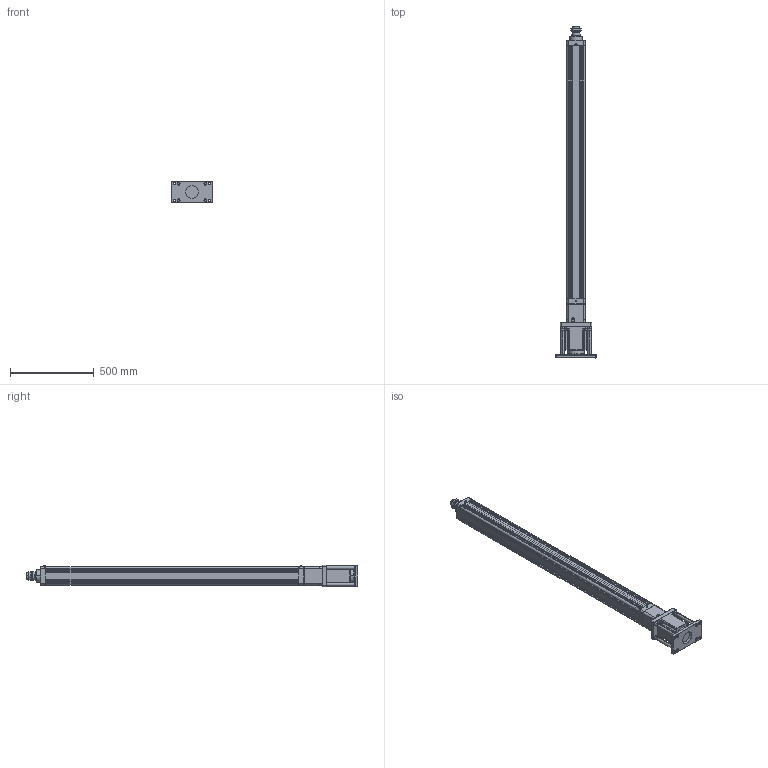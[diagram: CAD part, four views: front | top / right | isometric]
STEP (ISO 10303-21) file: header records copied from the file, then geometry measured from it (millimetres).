
FILE_DESCRIPTION((''),'2;1');
FILE_NAME('HE100-D-P_ASM','2020-04-21T',('ASUS20200'),(''),'CREO PARAMETRIC BY PTC INC, 2014190','CREO PARAMETRIC BY PTC INC, 2014190','');
FILE_SCHEMA(('CONFIG_CONTROL_DESIGN'));
Length unit declared in the file: millimetre
Products named in the file (23): HE100-D-P-001-X1; HE100-D-P-002-X1; HE100-D-P-003-X1; 30305J; JDB506030; SLM-01; YZ-M6X1; HE100-100-D-P-X1_ASM; HE100-D-009-X1; HE100-D-010-X1-130N; M8X20; 130ST-M10010; TD-8; M8X40; SKT-20; HE100-D-P-005-X1; HE100-D-P-004-X1; HE80-D-P-008-X1; LGLM-M10-25; HE100-FB-LG; F-HE100FB; M10X30; HE100-D-P_ASM
Assembly tree (46 placements, depth 3):
  HE100-D-P_ASM
    HE100-100-D-P-X1_ASM
      HE100-D-P-001-X1
      HE100-D-P-002-X1
      HE100-D-P-003-X1
      30305J  x2
      JDB506030
      SLM-01
      YZ-M6X1
    HE100-D-009-X1
    HE100-D-010-X1-130N
    M8X20  x4
    130ST-M10010
    TD-8  x4
    M8X40  x4
    SKT-20  x2
    HE100-D-P-005-X1
    HE100-D-P-004-X1
    HE80-D-P-008-X1
    LGLM-M10-25  x4
    HE100-FB-LG  x4
    F-HE100FB
    M10X30  x8
Bounding box: 240 x 1982 x 130 mm (x, y, z)
Volume: 9882203.1 mm3; surface area: 2612003.5 mm2
Topology: 45 solids, 76 shells, 1961 faces, 4507 edges, 2750 vertices
Faces by surface type: plane 662, cone 578, cylinder 573, torus 114, sphere 30, bspline 4
Entity records: 41267 total; most frequent: CARTESIAN_POINT 7777, DIRECTION 7518, ORIENTED_EDGE 6340, EDGE_CURVE 3217, AXIS2_PLACEMENT_3D 2949, VERTEX_POINT 1964, EDGE_LOOP 1655, VECTOR 1620
